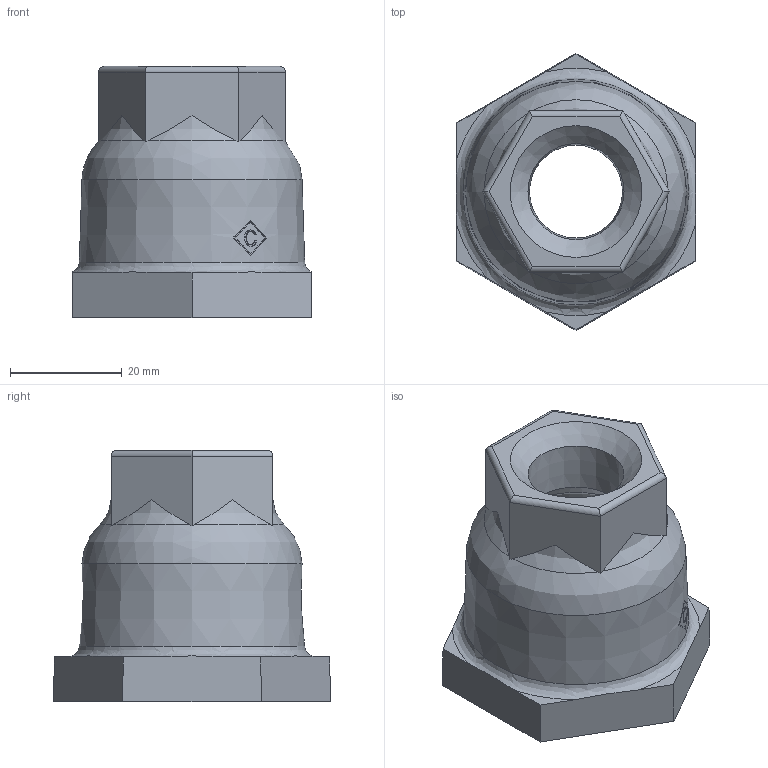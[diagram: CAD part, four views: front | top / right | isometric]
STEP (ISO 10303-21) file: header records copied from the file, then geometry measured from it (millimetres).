
FILE_DESCRIPTION((''),'2;1');
FILE_NAME('P:\Fastrack\53909_CRANE\Crane\Fig.179 Reducing Socket\New 1.00 inch\179-1.00x0.50.stp','2009-09-17T08:34:55',('btaylor'),(''),'Autodesk Inventor 2008','Autodesk Inventor 2008','');
FILE_SCHEMA(('AUTOMOTIVE_DESIGN { 1 0 10303 214 1 1 1 1 }'));
Length unit declared in the file: millimetre
Products named in the file (1): 179-1.00x0.50
Bounding box: 43 x 49.65 x 45 mm (x, y, z)
Volume: 28065.7 mm3; surface area: 10609.5 mm2
Topology: 1 solids, 1 shells, 64 faces, 168 edges, 110 vertices
Faces by surface type: plane 31, bspline 17, cone 8, cylinder 6, torus 2
Entity records: 2651 total; most frequent: CARTESIAN_POINT 1193, ORIENTED_EDGE 310, DIRECTION 254, EDGE_CURVE 155, VERTEX_POINT 107, AXIS2_PLACEMENT_3D 97, EDGE_LOOP 80, FACE_OUTER_BOUND 64
